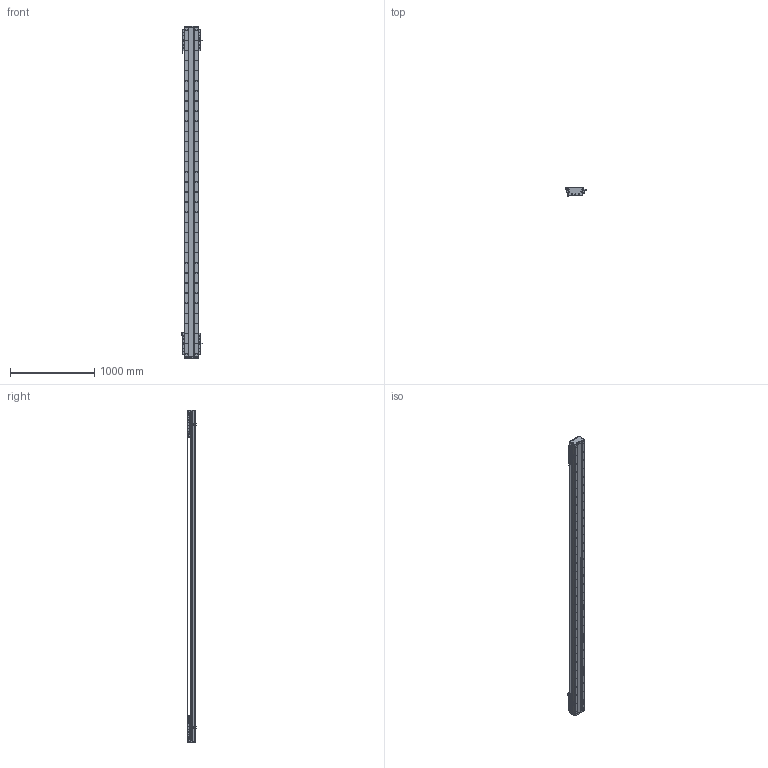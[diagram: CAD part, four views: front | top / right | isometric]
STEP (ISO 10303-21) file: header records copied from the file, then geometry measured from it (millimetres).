
FILE_DESCRIPTION (( 'STEP AP203' ), '1' );
FILE_NAME ('DA-C165-2-C3-T3320-C010-0.2 直线电机.STEP', '2023-06-13T09:09:16', ( '微软用户' ), ( '微软中国' ), 'SwSTEP 2.0', 'SolidWorks 2019', '' );
FILE_SCHEMA (( 'CONFIG_CONTROL_DESIGN' ));
Length unit declared in the file: millimetre
Products named in the file (22): 葩璃 PM-T45^DA-C165-C3-T-C010-0.2-N 眻盄萇儂; 葩璃 CKM03-W075-C1C2-TP-3.0^DA-C165-C3-T-C010-0.2-N 眻盄萇儂; 葩璃 DA95-GT-T-00^IU-CU165-L 菁釱絳寢_T; 珨极趙賑雄怢啣C3-wf; 复件 CU165 底座^IU-CU165-L 底座导轨_L3900; IU-CU165-L 菁釱絳寢; 复件 DA165-GDLK-00 钢带拉块^复件 CU165钢带组件_DA-C165-C3-T-C010-0.2-N 直线电机; 复件 XD-U-02L 磁栅尺^DA-C165-C3-T-C010-0.2-N 直线电机_T; 复件 DA165-GYP-00 光电感应片^DA-C165-C3-T-C010-0.2-N 直线电机; 复件 DA126-GYP-ZJ-00 中间光电感应片^DA-C165-C3-T-C010-0.2-N 直线电机; 葩璃 CKM01-W075-TRL^DA-C165-C3-T-C010-0.2-N 眻盄萇儂; 复件 DMA-010-0.2 读数头^DA-C165-C3-T-C010-0.2-N 直线电机; 葩璃 PM-Y45^DA-C165-C3-T-C010-0.2-N 眻盄萇儂; 复件 DA165-GD-1860-002-00 钢带盖板^复件 CU165钢带组件_DA-C165-C3-T-C010-0.2-N 直线电机; 复件 DA95-HXJ-00 缓冲橡胶^DA-C165-C3-T-C010-0.2-N 直线电机; DA-C165-2-C3-T3320-C010-0.2 眻盄萇儂; 复件 六角薄螺母 M3^DA-C165-C3-T-C010-0.2-N 直线电机_GB_FASTENER_NUT_STNAB M3-C; 复件 DKW-HXJ-JY-00 缓冲橡胶^DA-C165-C3-T-C010-0.2-N 直线电机; 复件 DA165-GDYK-00 钢带压块^复件 CU165钢带组件_DA-C165-C3-T-C010-0.2-N 直线电机; 复件 DA165-GD-DG-H-00 端盖^复件 CU165钢带组件_DA-C165-C3-T-C010-0.2-N 直线电机; 复件 CU165钢带组件^DA-C165-C3-T-C010-0.2-N 直线电机; 复件 66338-1000-006-00 光电感应块^DA-C165-C3-T-C010-0.2-N 直线电机
Assembly tree (45 placements, depth 3):
  DA-C165-2-C3-T3320-C010-0.2 眻盄萇儂
    IU-CU165-L 菁釱絳寢
      复件 CU165 底座^IU-CU165-L 底座导轨_L3900
      葩璃 DA95-GT-T-00^IU-CU165-L 菁釱絳寢_T  x4
    复件 XD-U-02L 磁栅尺^DA-C165-C3-T-C010-0.2-N 直线电机_T
    葩璃 PM-T45^DA-C165-C3-T-C010-0.2-N 眻盄萇儂  x4
    葩璃 CKM01-W075-TRL^DA-C165-C3-T-C010-0.2-N 眻盄萇儂
    复件 CU165钢带组件^DA-C165-C3-T-C010-0.2-N 直线电机
      复件 DA165-GD-DG-H-00 端盖^复件 CU165钢带组件_DA-C165-C3-T-C010-0.2-N 直线电机  x2
      复件 DA165-GDYK-00 钢带压块^复件 CU165钢带组件_DA-C165-C3-T-C010-0.2-N 直线电机  x2
      复件 DA165-GD-1860-002-00 钢带盖板^复件 CU165钢带组件_DA-C165-C3-T-C010-0.2-N 直线电机
      复件 DA165-GDLK-00 钢带拉块^复件 CU165钢带组件_DA-C165-C3-T-C010-0.2-N 直线电机  x2
    复件 DA95-HXJ-00 缓冲橡胶^DA-C165-C3-T-C010-0.2-N 直线电机  x4
    复件 DMA-010-0.2 读数头^DA-C165-C3-T-C010-0.2-N 直线电机  x2
    复件 DA165-GYP-00 光电感应片^DA-C165-C3-T-C010-0.2-N 直线电机  x2
    复件 66338-1000-006-00 光电感应块^DA-C165-C3-T-C010-0.2-N 直线电机
    葩璃 PM-Y45^DA-C165-C3-T-C010-0.2-N 眻盄萇儂
    复件 DA126-GYP-ZJ-00 中间光电感应片^DA-C165-C3-T-C010-0.2-N 直线电机
    葩璃 CKM03-W075-C1C2-TP-3.0^DA-C165-C3-T-C010-0.2-N 眻盄萇儂  x2
    复件 DKW-HXJ-JY-00 缓冲橡胶^DA-C165-C3-T-C010-0.2-N 直线电机  x2
    复件 六角薄螺母 M3^DA-C165-C3-T-C010-0.2-N 直线电机_GB_FASTENER_NUT_STNAB M3-C  x8
    珨极趙賑雄怢啣C3-wf  x2
Bounding box: 247.2 x 111.45 x 3940 mm (x, y, z)
Volume: 23528517.1 mm3; surface area: 6886736.1 mm2
Topology: 121 solids, 221 shells, 7225 faces, 20410 edges, 12826 vertices
Faces by surface type: cylinder 4094, plane 2063, cone 980, torus 80, sphere 8
Entity records: 181964 total; most frequent: CARTESIAN_POINT 51701, ORIENTED_EDGE 27404, DIRECTION 26004, EDGE_CURVE 13702, AXIS2_PLACEMENT_3D 9995, VERTEX_POINT 8980, EDGE_LOOP 6252, VECTOR 6014
